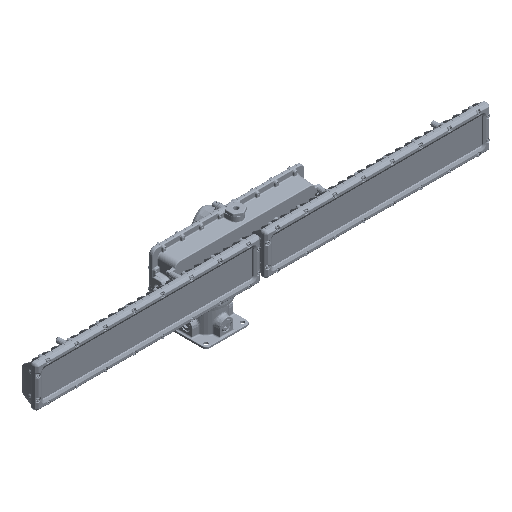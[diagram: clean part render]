
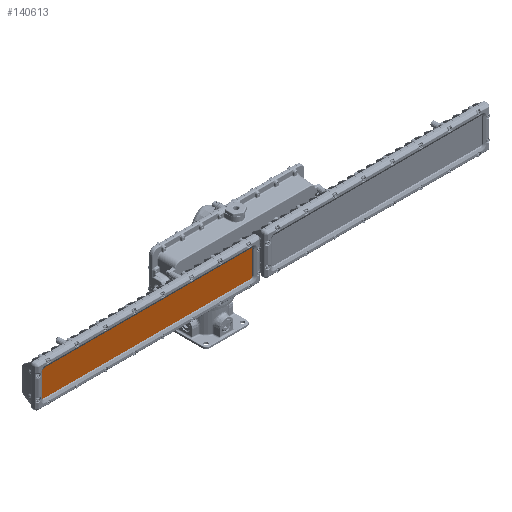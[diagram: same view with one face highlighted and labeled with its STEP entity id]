
A CAD part, isometric view. The second image highlights one B-rep face of the part: STEP entity #140613.
In plain terms, the highlighted planar face has unit normal (0, -1, 0).
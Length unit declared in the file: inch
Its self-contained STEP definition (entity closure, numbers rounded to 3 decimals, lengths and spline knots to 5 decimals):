
#80 = ORIENTED_EDGE ( 'NONE', *, *, #91800, .F. ) ;
#1124 = CARTESIAN_POINT ( 'NONE',  ( 11.25, 0., -1.80118 ) ) ;
#1866 = EDGE_CURVE ( 'NONE', #224098, #219559, #273486, .T. ) ;
#18371 = CARTESIAN_POINT ( 'NONE',  ( -11.44685, 0., 1.60433 ) ) ;
#20735 = VERTEX_POINT ( 'NONE', #25796 ) ;
#25796 = CARTESIAN_POINT ( 'NONE',  ( 11.25, 0., 1.80118 ) ) ;
#26707 = CARTESIAN_POINT ( 'NONE',  ( 11.44685, 0., -1.60433 ) ) ;
#33234 = EDGE_CURVE ( 'NONE', #233476, #264743, #247738, .T. ) ;
#34650 = CARTESIAN_POINT ( 'NONE',  ( 0., 0., 0. ) ) ;
#35140 = CARTESIAN_POINT ( 'NONE',  ( 11.44685, 0., 1.60433 ) ) ;
#35213 = VECTOR ( 'NONE', #292032, 39.37008 ) ;
#36732 = ORIENTED_EDGE ( 'NONE', *, *, #364544, .F. ) ;
#40082 = EDGE_CURVE ( 'NONE', #20735, #139984, #288373, .T. ) ;
#46203 = LINE ( 'NONE', #159798, #274677 ) ;
#49231 = LINE ( 'NONE', #192643, #338932 ) ;
#57828 = LINE ( 'NONE', #255222, #222040 ) ;
#60245 = VERTEX_POINT ( 'NONE', #1124 ) ;
#62863 = LINE ( 'NONE', #183843, #90452 ) ;
#62962 = CARTESIAN_POINT ( 'NONE',  ( 11.25, 0., 1.80118 ) ) ;
#70594 = ORIENTED_EDGE ( 'NONE', *, *, #334113, .F. ) ;
#89780 = VECTOR ( 'NONE', #349979, 39.37008 ) ;
#90452 = VECTOR ( 'NONE', #122380, 39.37008 ) ;
#91388 = ORIENTED_EDGE ( 'NONE', *, *, #136670, .F. ) ;
#91800 = EDGE_CURVE ( 'NONE', #219559, #20735, #46203, .T. ) ;
#102157 = ORIENTED_EDGE ( 'NONE', *, *, #33234, .F. ) ;
#104989 = LINE ( 'NONE', #134816, #123303 ) ;
#109200 = CARTESIAN_POINT ( 'NONE',  ( -11.25, 0., -1.80118 ) ) ;
#115517 = DIRECTION ( 'NONE',  ( 0., 0., 1. ) ) ;
#117985 = CARTESIAN_POINT ( 'NONE',  ( -11.44685, 0., 1.60433 ) ) ;
#122380 = DIRECTION ( 'NONE',  ( 0., 0., -1. ) ) ;
#123303 = VECTOR ( 'NONE', #222366, 39.37008 ) ;
#134816 = CARTESIAN_POINT ( 'NONE',  ( 0., 0., -1.80118 ) ) ;
#135990 = DIRECTION ( 'NONE',  ( -0.707, 0., 0.707 ) ) ;
#136670 = EDGE_CURVE ( 'NONE', #139984, #366307, #62863, .T. ) ;
#139984 = VERTEX_POINT ( 'NONE', #35140 ) ;
#140613 = ADVANCED_FACE ( 'NONE', ( #347499 ), #295300, .F. ) ;
#159798 = CARTESIAN_POINT ( 'NONE',  ( 0., 0., 1.80118 ) ) ;
#178778 = ORIENTED_EDGE ( 'NONE', *, *, #260923, .F. ) ;
#183843 = CARTESIAN_POINT ( 'NONE',  ( 11.44685, 0., 0. ) ) ;
#192643 = CARTESIAN_POINT ( 'NONE',  ( 11.44685, 0., -1.60433 ) ) ;
#218149 = CARTESIAN_POINT ( 'NONE',  ( -11.25, 0., 1.80118 ) ) ;
#219559 = VERTEX_POINT ( 'NONE', #218149 ) ;
#221589 = AXIS2_PLACEMENT_3D ( 'NONE', #34650, #237587, #235741 ) ;
#222040 = VECTOR ( 'NONE', #115517, 39.37008 ) ;
#222366 = DIRECTION ( 'NONE',  ( -1., 0., 0. ) ) ;
#224098 = VERTEX_POINT ( 'NONE', #117985 ) ;
#228356 = EDGE_LOOP ( 'NONE', ( #102157, #36732, #178778, #91388, #276326, #80, #290918, #70594 ) ) ;
#233476 = VERTEX_POINT ( 'NONE', #109200 ) ;
#235741 = DIRECTION ( 'NONE',  ( 0., 0., 1. ) ) ;
#237587 = DIRECTION ( 'NONE',  ( 0., 1., 0. ) ) ;
#247738 = LINE ( 'NONE', #277520, #365202 ) ;
#255222 = CARTESIAN_POINT ( 'NONE',  ( -11.44685, 0., 0. ) ) ;
#260923 = EDGE_CURVE ( 'NONE', #366307, #60245, #49231, .T. ) ;
#264743 = VERTEX_POINT ( 'NONE', #341199 ) ;
#273370 = DIRECTION ( 'NONE',  ( 1., 0., 0. ) ) ;
#273486 = LINE ( 'NONE', #18371, #89780 ) ;
#274677 = VECTOR ( 'NONE', #273370, 39.37008 ) ;
#276326 = ORIENTED_EDGE ( 'NONE', *, *, #40082, .F. ) ;
#277520 = CARTESIAN_POINT ( 'NONE',  ( -11.25, 0., -1.80118 ) ) ;
#288373 = LINE ( 'NONE', #62962, #35213 ) ;
#290918 = ORIENTED_EDGE ( 'NONE', *, *, #1866, .F. ) ;
#292032 = DIRECTION ( 'NONE',  ( 0.707, 0., -0.707 ) ) ;
#295300 = PLANE ( 'NONE',  #221589 ) ;
#332310 = DIRECTION ( 'NONE',  ( -0.707, 0., -0.707 ) ) ;
#334113 = EDGE_CURVE ( 'NONE', #264743, #224098, #57828, .T. ) ;
#338932 = VECTOR ( 'NONE', #332310, 39.37008 ) ;
#341199 = CARTESIAN_POINT ( 'NONE',  ( -11.44685, 0., -1.60433 ) ) ;
#347499 = FACE_OUTER_BOUND ( 'NONE', #228356, .T. ) ;
#349979 = DIRECTION ( 'NONE',  ( 0.707, 0., 0.707 ) ) ;
#364544 = EDGE_CURVE ( 'NONE', #60245, #233476, #104989, .T. ) ;
#365202 = VECTOR ( 'NONE', #135990, 39.37008 ) ;
#366307 = VERTEX_POINT ( 'NONE', #26707 ) ;
